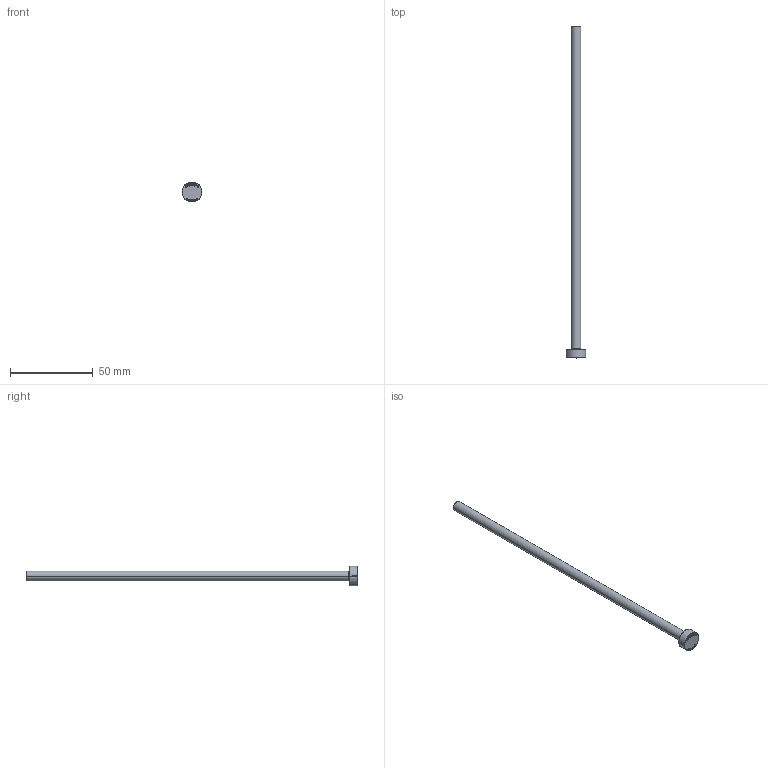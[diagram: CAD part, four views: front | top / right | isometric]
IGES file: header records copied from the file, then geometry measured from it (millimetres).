
Start section: SolidWorks IGES file using analytic representation for surfaces
Global section: file name: C:\Users\User\Downloads\Matripeça 31-08 tar\PB - PINO EXTRATOR TIPO _B_ (CATÁLOGO)\PB06,0\PB06,0200.IGS; native system: SolidWorks 2024; preprocessor: SolidWorks 2024; author: User; date: 260901.143756; units: millimetre
Bounding box: 12 x 200 x 12 mm (x, y, z)
Surface area: 4096 mm2 (no closed solid volume)
Topology: 0 solids, 0 shells, 401 faces, 3842 edges, 3842 vertices
Faces by surface type: bspline 387, revolution 14
